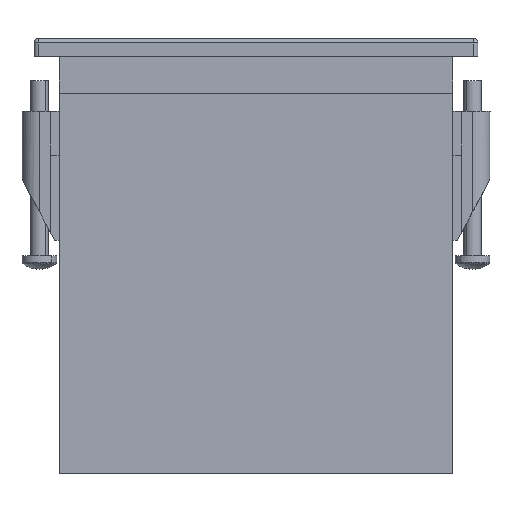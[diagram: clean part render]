
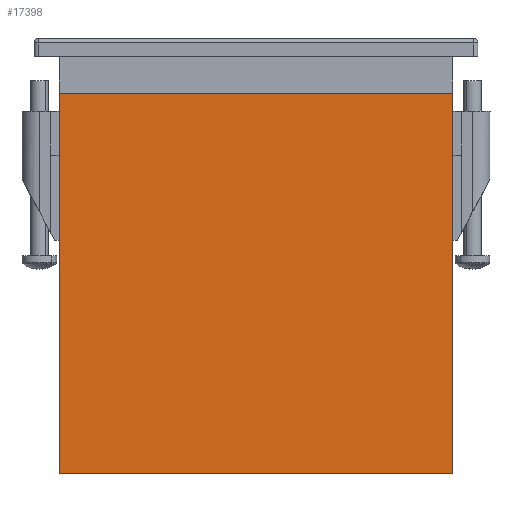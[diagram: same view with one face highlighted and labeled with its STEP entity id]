
A CAD part, front view. The second image highlights one B-rep face of the part: STEP entity #17398.
In plain terms, the highlighted planar face has unit normal (0, -1, 0).
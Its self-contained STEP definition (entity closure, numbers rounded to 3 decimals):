
#268 = VECTOR ( 'NONE', #28204, 1000. ) ;
#1100 = CARTESIAN_POINT ( 'NONE',  ( 45., -20.5, -90.5 ) ) ;
#2798 = DIRECTION ( 'NONE',  ( 0., 0., 1. ) ) ;
#3063 = CARTESIAN_POINT ( 'NONE',  ( 45., -20.5, -90.5 ) ) ;
#4919 = CARTESIAN_POINT ( 'NONE',  ( 45., -20.5, -99.5 ) ) ;
#5585 = EDGE_CURVE ( 'NONE', #8647, #31933, #13266, .T. ) ;
#7336 = CARTESIAN_POINT ( 'NONE',  ( 45., -20.5, -99.5 ) ) ;
#7785 = VERTEX_POINT ( 'NONE', #4919 ) ;
#8299 = VERTEX_POINT ( 'NONE', #14012 ) ;
#8452 = EDGE_CURVE ( 'NONE', #8299, #31933, #36981, .T. ) ;
#8470 = AXIS2_PLACEMENT_3D ( 'NONE', #3063, #26882, #2798 ) ;
#8647 = VERTEX_POINT ( 'NONE', #18792 ) ;
#10404 = VECTOR ( 'NONE', #13662, 1000. ) ;
#10890 = VECTOR ( 'NONE', #24880, 1000. ) ;
#11055 = VECTOR ( 'NONE', #32590, 1000. ) ;
#11556 = CARTESIAN_POINT ( 'NONE',  ( 45., -20.5, -12.5 ) ) ;
#13266 = LINE ( 'NONE', #36552, #10890 ) ;
#13662 = DIRECTION ( 'NONE',  ( -1., 0., 0. ) ) ;
#14012 = CARTESIAN_POINT ( 'NONE',  ( 45., -20.5, -12.5 ) ) ;
#17398 = ADVANCED_FACE ( 'NONE', ( #39027 ), #27146, .F. ) ;
#18792 = CARTESIAN_POINT ( 'NONE',  ( -45., -20.5, -99.5 ) ) ;
#20447 = ORIENTED_EDGE ( 'NONE', *, *, #24202, .T. ) ;
#20789 = LINE ( 'NONE', #7336, #10404 ) ;
#22882 = LINE ( 'NONE', #1100, #268 ) ;
#23525 = ORIENTED_EDGE ( 'NONE', *, *, #5585, .F. ) ;
#24202 = EDGE_CURVE ( 'NONE', #7785, #8299, #22882, .T. ) ;
#24880 = DIRECTION ( 'NONE',  ( 0., 0., 1. ) ) ;
#26882 = DIRECTION ( 'NONE',  ( 0., 1., 0. ) ) ;
#27032 = ORIENTED_EDGE ( 'NONE', *, *, #27908, .F. ) ;
#27040 = ORIENTED_EDGE ( 'NONE', *, *, #8452, .T. ) ;
#27146 = PLANE ( 'NONE',  #8470 ) ;
#27908 = EDGE_CURVE ( 'NONE', #7785, #8647, #20789, .T. ) ;
#28204 = DIRECTION ( 'NONE',  ( 0., 0., 1. ) ) ;
#31034 = CARTESIAN_POINT ( 'NONE',  ( -45., -20.5, -12.5 ) ) ;
#31933 = VERTEX_POINT ( 'NONE', #31034 ) ;
#32590 = DIRECTION ( 'NONE',  ( -1., 0., 0. ) ) ;
#36552 = CARTESIAN_POINT ( 'NONE',  ( -45., -20.5, -90.5 ) ) ;
#36981 = LINE ( 'NONE', #11556, #11055 ) ;
#37293 = EDGE_LOOP ( 'NONE', ( #27040, #23525, #27032, #20447 ) ) ;
#39027 = FACE_OUTER_BOUND ( 'NONE', #37293, .T. ) ;
